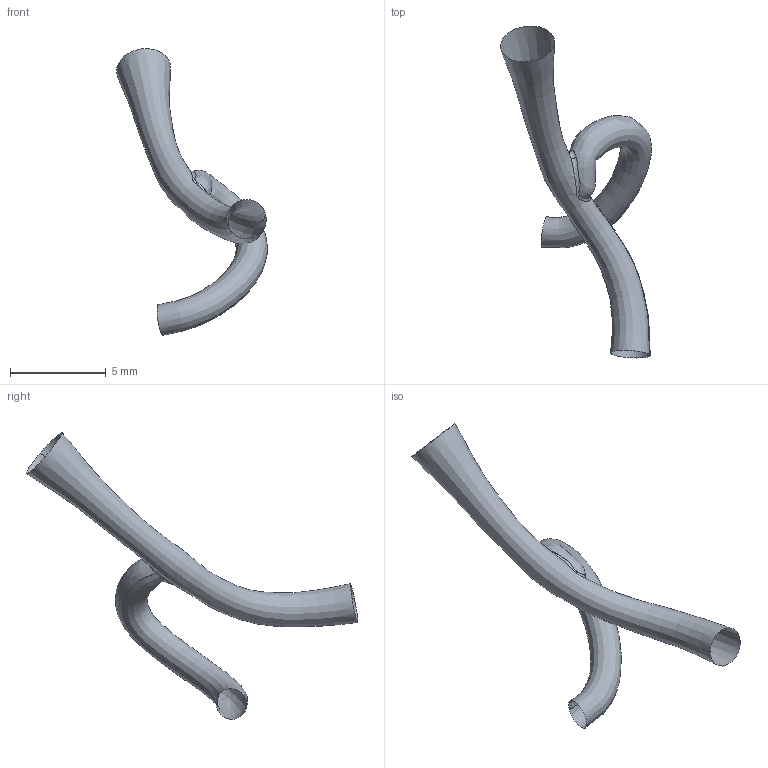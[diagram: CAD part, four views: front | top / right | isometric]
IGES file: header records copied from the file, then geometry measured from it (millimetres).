
Global section: file name: C:\Documents and Settings\Administrator\Desktop\FDA Bifurcation win\RawData_for_IGES\HRCA_Data\19990219.135207\IGES\19990219.135207.RM2.BIFUR.ES.igs; native system: Rhinoceros ( May 19 2006 ); preprocessor: Trout Lake IGES 012 May 19 2006; date: 100728.195750; units: centimetre
Bounding box: 7.87 x 17.3 x 14.95 mm (x, y, z)
Surface area: 187.5 mm2 (no closed solid volume)
Topology: 0 solids, 0 shells, 5 faces, 56 edges, 53 vertices
Faces by surface type: bspline 5
